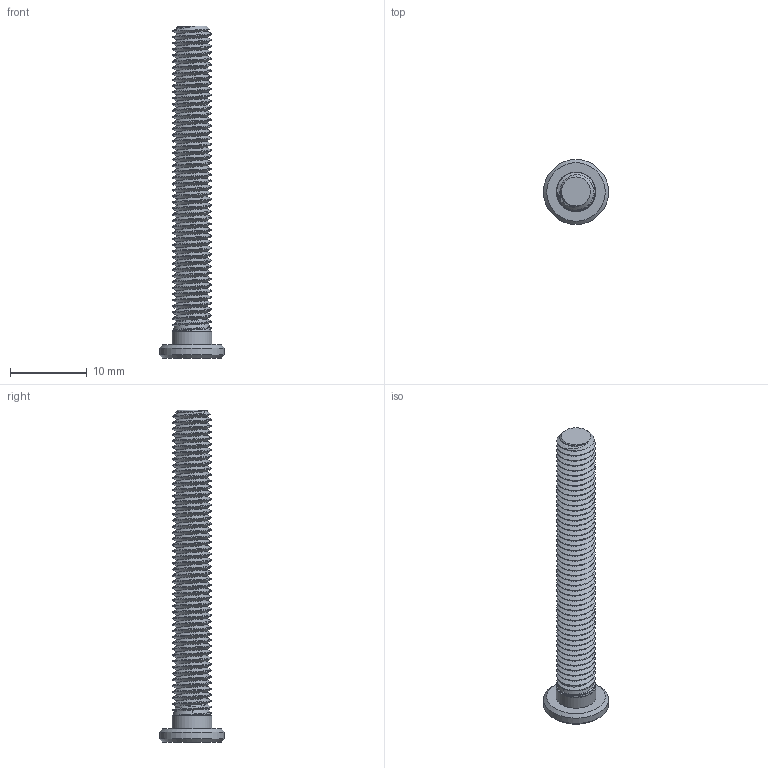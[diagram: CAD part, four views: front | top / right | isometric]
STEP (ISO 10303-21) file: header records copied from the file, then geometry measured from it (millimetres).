
FILE_DESCRIPTION(/* description */ (''),/* implementation_level */ '2;1');
FILE_NAME(/* name */ 'm5x40mm ( X direction).step',/* time_stamp */ '2025-04-22T13:04:04+05:30',/* author */ (''),/* organization */ (''),/* preprocessor_version */ 'ST-DEVELOPER v20.1',/* originating_system */ 'Autodesk Translation Framework v14.4.0.0',/* authorisation */ '');
FILE_SCHEMA (('AUTOMOTIVE_DESIGN { 1 0 10303 214 3 1 1 }'));
Length unit declared in the file: millimetre
Products named in the file (1): m5x40mm ( X direction)
Bounding box: 8.5 x 8.5 x 43.4 mm (x, y, z)
Volume: 750.6 mm3; surface area: 1158.4 mm2
Topology: 1 solids, 1 shells, 128 faces, 356 edges, 233 vertices
Faces by surface type: cylinder 102, cone 13, plane 11, bspline 2
Full cylindrical faces by diameter (mm): 3.961 x47, 5 x49, 5.2 x1, 8.5 x1
Entity records: 13295 total; most frequent: CARTESIAN_POINT 10414, ORIENTED_EDGE 712, DIRECTION 412, EDGE_CURVE 356, VERTEX_POINT 233, B_SPLINE_CURVE_WITH_KNOTS 212, AXIS2_PLACEMENT_3D 147, EDGE_LOOP 131
